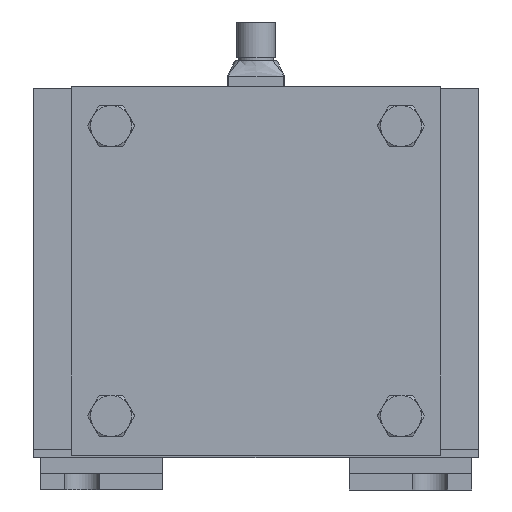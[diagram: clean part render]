
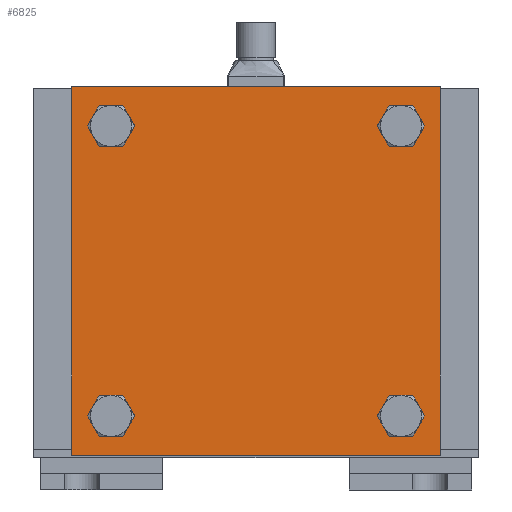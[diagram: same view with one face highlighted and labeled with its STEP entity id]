
A CAD part, front view. The second image highlights one B-rep face of the part: STEP entity #6825.
In plain terms, the highlighted planar face has unit normal (0, -1, 0) as drawn and (0, 0, 1) by its records, which use the part's own axes.
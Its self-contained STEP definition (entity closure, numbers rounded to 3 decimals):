
#542=LINE($,#11301,#976);
#546=LINE($,#11309,#980);
#549=LINE($,#11315,#983);
#552=LINE($,#11320,#986);
#976=VECTOR($,#9037,114.3);
#980=VECTOR($,#9043,114.3);
#983=VECTOR($,#9048,114.3);
#986=VECTOR($,#9053,114.3);
#1272=PLANE($,#7517);
#1545=FACE_BOUND($,#2700,.T.);
#1546=FACE_BOUND($,#2701,.T.);
#1547=FACE_BOUND($,#2702,.T.);
#1548=FACE_BOUND($,#2703,.T.);
#2085=FACE_OUTER_BOUND($,#2699,.T.);
#2699=EDGE_LOOP($,(#5782,#5783,#5784,#5785));
#2700=EDGE_LOOP($,(#5786));
#2701=EDGE_LOOP($,(#5787));
#2702=EDGE_LOOP($,(#5788));
#2703=EDGE_LOOP($,(#5789));
#3246=CIRCLE($,#7495,4.25);
#3248=CIRCLE($,#7498,4.25);
#3250=CIRCLE($,#7501,4.25);
#3252=CIRCLE($,#7504,4.25);
#3741=VERTEX_POINT($,#11269);
#3743=VERTEX_POINT($,#11274);
#3745=VERTEX_POINT($,#11279);
#3747=VERTEX_POINT($,#11284);
#3752=VERTEX_POINT($,#11299);
#3753=VERTEX_POINT($,#11300);
#3756=VERTEX_POINT($,#11308);
#3758=VERTEX_POINT($,#11314);
#4478=EDGE_CURVE($,#3741,#3741,#3246,.T.);
#4480=EDGE_CURVE($,#3743,#3743,#3248,.T.);
#4482=EDGE_CURVE($,#3745,#3745,#3250,.T.);
#4484=EDGE_CURVE($,#3747,#3747,#3252,.T.);
#4489=EDGE_CURVE($,#3752,#3753,#542,.T.);
#4493=EDGE_CURVE($,#3753,#3756,#546,.T.);
#4496=EDGE_CURVE($,#3756,#3758,#549,.T.);
#4499=EDGE_CURVE($,#3758,#3752,#552,.T.);
#5782=ORIENTED_EDGE($,*,*,#4489,.F.);
#5783=ORIENTED_EDGE($,*,*,#4499,.F.);
#5784=ORIENTED_EDGE($,*,*,#4496,.F.);
#5785=ORIENTED_EDGE($,*,*,#4493,.F.);
#5786=ORIENTED_EDGE($,*,*,#4478,.T.);
#5787=ORIENTED_EDGE($,*,*,#4480,.T.);
#5788=ORIENTED_EDGE($,*,*,#4482,.T.);
#5789=ORIENTED_EDGE($,*,*,#4484,.T.);
#6825=ADVANCED_FACE($,(#2085,#1545,#1546,#1547,#1548),#1272,.T.);
#7495=AXIS2_PLACEMENT_3D($,#11270,#8999,#9000);
#7498=AXIS2_PLACEMENT_3D($,#11275,#9005,#9006);
#7501=AXIS2_PLACEMENT_3D($,#11280,#9011,#9012);
#7504=AXIS2_PLACEMENT_3D($,#11285,#9017,#9018);
#7517=AXIS2_PLACEMENT_3D($,#11322,#9055,#9056);
#8999=DIRECTION('center_axis',(0.,0.,-1.));
#9000=DIRECTION('ref_axis',(1.,0.,0.));
#9005=DIRECTION('center_axis',(0.,0.,-1.));
#9006=DIRECTION('ref_axis',(1.,0.,0.));
#9011=DIRECTION('center_axis',(0.,0.,-1.));
#9012=DIRECTION('ref_axis',(1.,0.,0.));
#9017=DIRECTION('center_axis',(0.,0.,-1.));
#9018=DIRECTION('ref_axis',(1.,0.,0.));
#9037=DIRECTION($,(0.,-1.,0.));
#9043=DIRECTION($,(-1.,0.,0.));
#9048=DIRECTION($,(0.,1.,0.));
#9053=DIRECTION($,(1.,0.,0.));
#9055=DIRECTION('center_axis',(0.,0.,1.));
#9056=DIRECTION('ref_axis',(1.,0.,0.));
#11269=CARTESIAN_POINT('',(49.25,-45.,30.));
#11270=CARTESIAN_POINT('Origin',(45.,-45.,30.));
#11274=CARTESIAN_POINT('',(49.25,45.,30.));
#11275=CARTESIAN_POINT('Origin',(45.,45.,30.));
#11279=CARTESIAN_POINT('',(-40.75,45.,30.));
#11280=CARTESIAN_POINT('Origin',(-45.,45.,30.));
#11284=CARTESIAN_POINT('',(-40.75,-45.,30.));
#11285=CARTESIAN_POINT('Origin',(-45.,-45.,30.));
#11299=CARTESIAN_POINT('',(57.15,57.15,30.));
#11300=CARTESIAN_POINT('',(57.15,-57.15,30.));
#11301=CARTESIAN_POINT($,(57.15,57.15,30.));
#11308=CARTESIAN_POINT('',(-57.15,-57.15,30.));
#11309=CARTESIAN_POINT($,(57.15,-57.15,30.));
#11314=CARTESIAN_POINT('',(-57.15,57.15,30.));
#11315=CARTESIAN_POINT($,(-57.15,-57.15,30.));
#11320=CARTESIAN_POINT($,(-57.15,57.15,30.));
#11322=CARTESIAN_POINT('Origin',(0.,0.,
30.));
